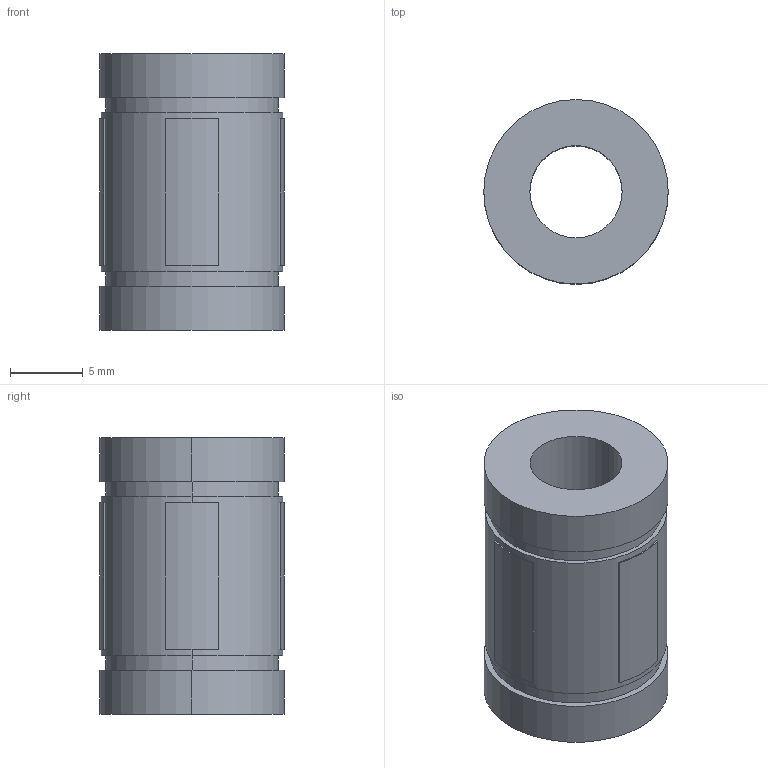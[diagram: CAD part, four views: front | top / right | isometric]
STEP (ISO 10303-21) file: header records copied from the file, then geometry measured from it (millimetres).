
FILE_DESCRIPTION((''),'2;1');
FILE_NAME('C:\Documents and Settings\ｿﾀﾀ蠑ｷ1\ｹﾙﾅﾁ ﾈｭｸ饅\ｺﾎﾇｰﾆﾄﾀﾏ\ﾁｦﾇｰ\LMBS__UU\LMBS4UU.stp','2005-06-15T13:45:26',('ｿﾀﾀ蠑ｷ1'),(''),'Autodesk Inventor 9','Autodesk Inventor 9','');
FILE_SCHEMA(('AUTOMOTIVE_DESIGN { 1 0 10303 214 1 1 1 1 }'));
Length unit declared in the file: millimetre
Products named in the file (1): LMBS__
Bounding box: 12.7 x 12.7 x 19.05 mm (x, y, z)
Volume: 1754.1 mm3; surface area: 1383.9 mm2
Topology: 1 solids, 1 shells, 38 faces, 90 edges, 60 vertices
Faces by surface type: plane 20, cylinder 14, bspline 4
Entity records: 1171 total; most frequent: CARTESIAN_POINT 229, DIRECTION 204, ORIENTED_EDGE 180, EDGE_CURVE 90, AXIS2_PLACEMENT_3D 79, VERTEX_POINT 60, VECTOR 46, LINE 46
